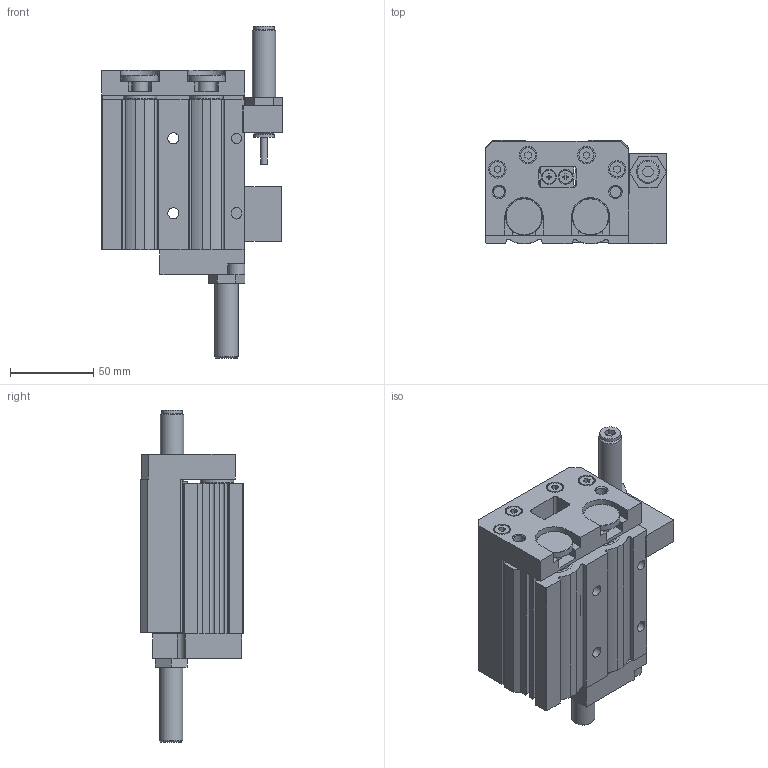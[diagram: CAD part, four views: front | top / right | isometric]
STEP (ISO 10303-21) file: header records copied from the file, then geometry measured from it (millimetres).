
FILE_DESCRIPTION( ( 'STEP AP214' ), '1' );
FILE_NAME( 'C:/Users/EMC02301/Desktop/ELSL图纸/ELSL25X30-S-B.stp', '2026-08-05T08:24:03', ( 'License CC BY-ND 4.0' ), ( 'CADENAS' ), ' ', 'PARTsolutions', ' ' );
FILE_SCHEMA( ( 'AUTOMOTIVE_DESIGN { 1 0 10303 214 1 1 1 1 }' ) );
Length unit declared in the file: millimetre
Products named in the file (6): ELSL25X30-S-B(0)(); _ELSL25X30-S-B(HX-07)(HX-07-1)(0-body); _ELSL25X30-S-B(0-rod); _FJ-ELS25-B; _FJ-ELSL25-B-(BS); _FJ-ELSL25-B-(BF)
Assembly tree (5 placements, depth 2):
  ELSL25X30-S-B(0)()
    _ELSL25X30-S-B(HX-07)(HX-07-1)(0-body)
    _ELSL25X30-S-B(0-rod)
    _FJ-ELS25-B
    _FJ-ELSL25-B-(BS)
    _FJ-ELSL25-B-(BF)
Bounding box: 108.5 x 62 x 199.5 mm (x, y, z)
Volume: 553103.6 mm3; surface area: 132670.6 mm2
Topology: 5 solids, 5 shells, 619 faces, 1498 edges, 990 vertices
Faces by surface type: plane 459, cylinder 128, cone 32
Full cylindrical faces by diameter (mm): 4 x2, 4.917 x10, 6 x2, 6.647 x8, 6.8 x2, 8 x8, 8.566 x2, 9 x12, 10 x8, 10.267 x2, 10.5 x7, 10.667 x2, 10.9 x2, 12 x7, 12.6 x2, 14 x3, 20 x2, 22 x2, 23 x2, 25 x4, 26 x2
Entity records: 22273 total; most frequent: CARTESIAN_POINT 2956, DIRECTION 2899, ORIENTED_EDGE 2716, EDGE_CURVE 1358, LINE 1067, VECTOR 1067, VERTEX_POINT 973, AXIS2_PLACEMENT_3D 916
